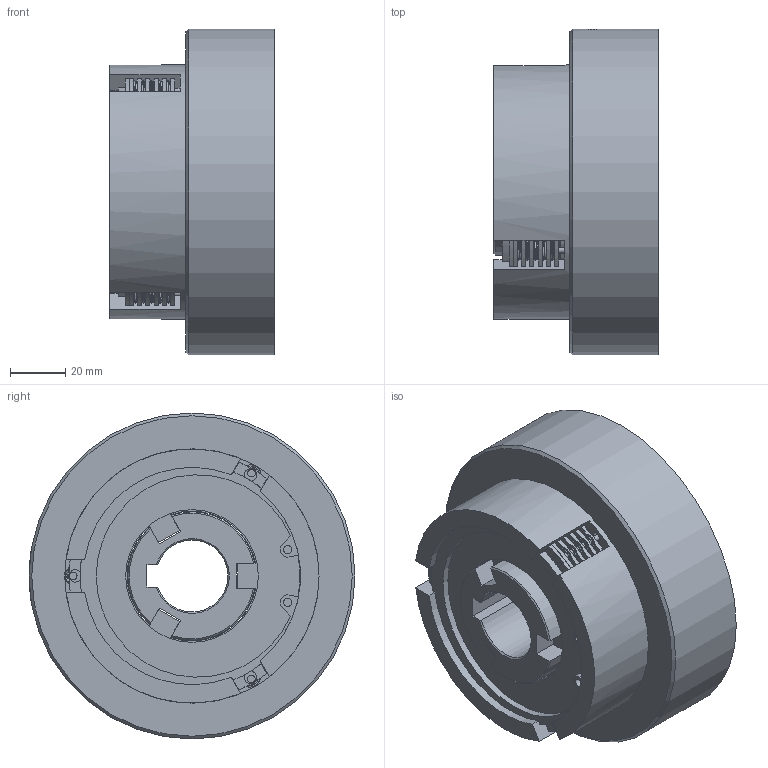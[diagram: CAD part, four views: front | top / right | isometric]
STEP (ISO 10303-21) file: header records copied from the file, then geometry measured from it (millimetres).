
FILE_DESCRIPTION(/* description */ (''),/* implementation_level */ '2;1');
FILE_NAME(/* name */ 'X:\INVENTOR\DISEGNI\03_Friz_Oleod_Pneum_Cil_Stat\03_40 FPL-N\03_40_002_01 FPL_N02\B\03_40_002_01 FPL-N02B@STEP.stp',/* time_stamp */ '2018-07-12T14:43:18+02:00',/* author */ ('stefano'),/* organization */ (''),/* preprocessor_version */ 'ST-DEVELOPER v17',/* originating_system */ 'Autodesk Inventor 2018',/* authorisation */ '');
FILE_SCHEMA (('AUTOMOTIVE_DESIGN { 1 0 10303 214 3 1 1 }'));
Length unit declared in the file: millimetre
Products named in the file (1): 03_40_002_01 FPL-N02B_Substitute_1
Bounding box: 59.5 x 118 x 118 mm (x, y, z)
Volume: 404409.5 mm3; surface area: 109658.4 mm2
Topology: 2 solids, 2 shells, 556 faces, 1521 edges, 1022 vertices
Faces by surface type: plane 265, cylinder 141, bspline 119, cone 28, torus 3
Full cylindrical faces by diameter (mm): 2 x3, 2.75 x18, 3 x2, 3.5 x3, 4.917 x6, 6 x1, 8.566 x1, 10 x8, 48 x8, 62.5 x1, 75 x7, 78.6 x1, 92 x1, 100 x2, 118 x1
Entity records: 34972 total; most frequent: CARTESIAN_POINT 20499, ORIENTED_EDGE 3022, DIRECTION 2890, EDGE_CURVE 1511, AXIS2_PLACEMENT_3D 1152, VERTEX_POINT 1022, CIRCLE 711, EDGE_LOOP 669
